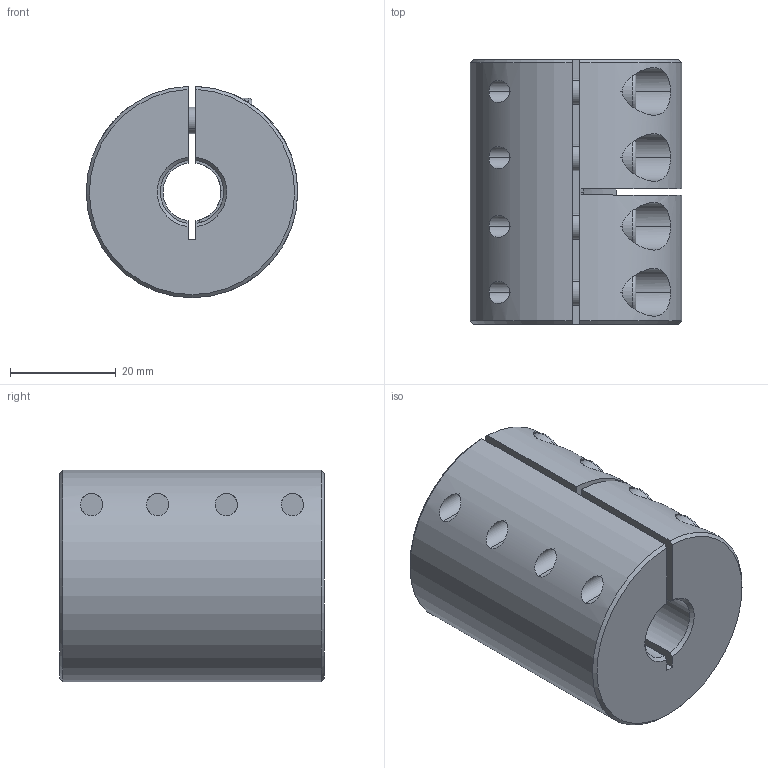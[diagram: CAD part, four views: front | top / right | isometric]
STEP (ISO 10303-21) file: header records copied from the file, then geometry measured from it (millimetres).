
FILE_DESCRIPTION (( 'STEP AP214' ), '1' );
FILE_NAME ('LL-B-D40L50-11-12½¨Ä£.STEP', '2022-07-22T00:19:20', ( '' ), ( '' ), 'SwSTEP 2.0', 'SolidWorks 2022', '' );
FILE_SCHEMA (( 'AUTOMOTIVE_DESIGN' ));
Length unit declared in the file: millimetre
Products named in the file (1): LL-B-D40L50-11-12膘耀
Bounding box: 40 x 50 x 39.99 mm (x, y, z)
Volume: 54232.8 mm3; surface area: 15445.7 mm2
Topology: 1 solids, 1 shells, 182 faces, 463 edges, 291 vertices
Faces by surface type: plane 88, cylinder 71, cone 15, torus 8
Entity records: 6015 total; most frequent: CARTESIAN_POINT 1525, DIRECTION 971, ORIENTED_EDGE 910, EDGE_CURVE 455, AXIS2_PLACEMENT_3D 377, VERTEX_POINT 291, LINE 217, VECTOR 217
